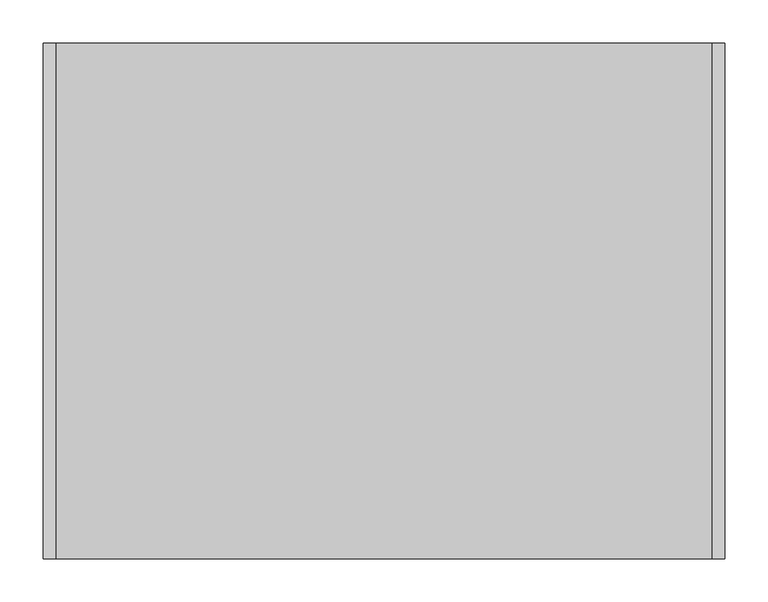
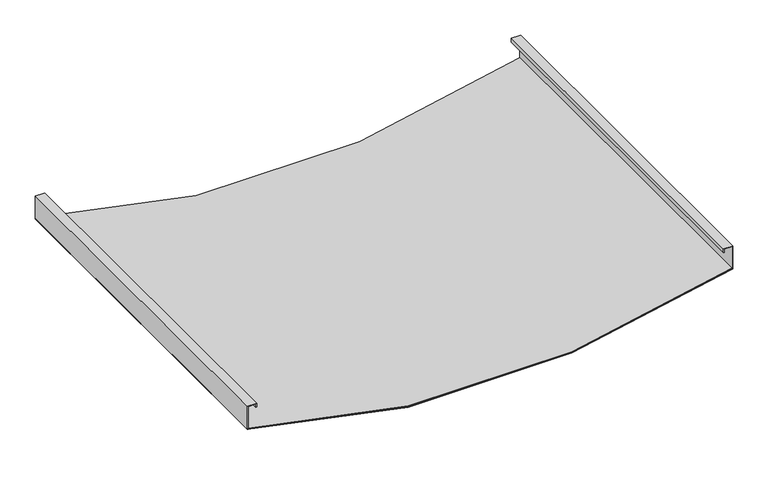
"""IFC4 building model written with IfcOpenShell, lengths in millimetres: proxy geometry, durlum_S7_DOMUS_ALT_panel : durlum_S7_DOMUS_panel."""

from ifc_helpers import new_model, si_unit, point, frame, frame_2d, origin, place, context, project, spatial, polyline, circle_curve, trimmed, segment, composite_curve, outline, extrude, source, transform, mapped, element, save


def generic_models_10d21898(model_context):
    return source(origin(), model_context, "Body", "SweptSolid", [
        extrude(outline(composite_curve([segment(polyline([(0.7370548, 395.0), (1.783906, 395.0)]), True, "CONTINUOUS"), segment(trimmed(circle_curve(frame_2d((1276.8, 0.0)), 1334.8), [point((1.783906, 395.0))], [point((1.783906, -395.0))], True, "CARTESIAN"), True, "CONTINUOUS"), segment(polyline([(1.783906, -395.0), (0.7370548, -395.0)]), True, "CONTINUOUS"), segment(trimmed(circle_curve(frame_2d((1276.8, 0.0)), 1335.8), [point((0.7370548, -395.0))], [point((0.7370548, 395.0))], False, "CARTESIAN"), True, "CONTINUOUS")], self_intersect=False)), frame((0.0, -299.75, 0.0), z_axis=(0.0, 1.0, 0.0), x_axis=(0.0, 0.0, 1.0)), (0.0, 0.0, 1.0), 599.5),
        extrude(outline(polyline([(40.0, -396.0), (0.0, -396.0), (0.0, -395.0), (39.0, -395.0), (39.0, -382.0), (33.5, -382.0), (33.5, -381.0), (40.0, -381.0), (40.0, -396.0)])), frame((0.0, -299.75, 0.0), z_axis=(0.0, 1.0, 0.0), x_axis=(0.0, 0.0, 1.0)), (0.0, 0.0, 1.0), 599.5),
        extrude(outline(polyline([(40.0, 396.0), (40.0, 381.0), (33.5, 381.0), (33.5, 382.0), (39.0, 382.0), (39.0, 395.0), (0.0, 395.0), (0.0, 396.0), (40.0, 396.0)])), frame((0.0, -299.75, 0.0), z_axis=(0.0, 1.0, 0.0), x_axis=(0.0, 0.0, 1.0)), (0.0, 0.0, 1.0), 599.5),
        extrude(outline(composite_curve([segment(trimmed(circle_curve(frame_2d((1276.8, 0.0)), 1336.8), [point((0.0, -396.0))], [point((0.0, 396.0))], False, "CARTESIAN"), True, "CONTINUOUS"), segment(polyline([(0.0, 396.0), (1.0470302, 396.0)]), True, "CONTINUOUS"), segment(trimmed(circle_curve(frame_2d((1276.8, 0.0)), 1335.8), [point((1.0470302, 396.0))], [point((1.0470302, -396.0))], True, "CARTESIAN"), True, "CONTINUOUS"), segment(polyline([(1.0470302, -396.0), (0.0, -396.0)]), True, "CONTINUOUS")], self_intersect=False)), frame((0.0, -299.75, 0.0), z_axis=(0.0, 1.0, 0.0), x_axis=(0.0, 0.0, 1.0)), (0.0, 0.0, 1.0), 599.5),
    ])


if __name__ == "__main__":
    model = new_model("IFC4")
    model_context = context("Model", 3, world=origin())
    ifc_project = project(units=[si_unit("LENGTHUNIT", "METRE", prefix="MILLI")], contexts=[model_context])
    site = spatial("IfcSite", under=ifc_project)
    building = spatial("IfcBuilding", under=site)
    placement = place(None, origin())
    generic_models_shape = generic_models_10d21898(model_context)
    element("IfcBuildingElementProxy", 1, Name="durlum_S7_DOMUS_ALT_panel : durlum_S7_DOMUS_panel", ObjectType="durlum_S7_DOMUS_ALT_panel : durlum_S7_DOMUS_panel", at=placement, inside=building, context=model_context, shape_type="MappedRepresentation", body=[
        mapped(generic_models_shape, transform((0.0, 0.0, 0.0), x_axis=(1.0, 0.0, 0.0), y_axis=(0.0, 1.0, 0.0), z_axis=(0.0, 0.0, 1.0))),
    ])
    save(model, "model.ifc")
